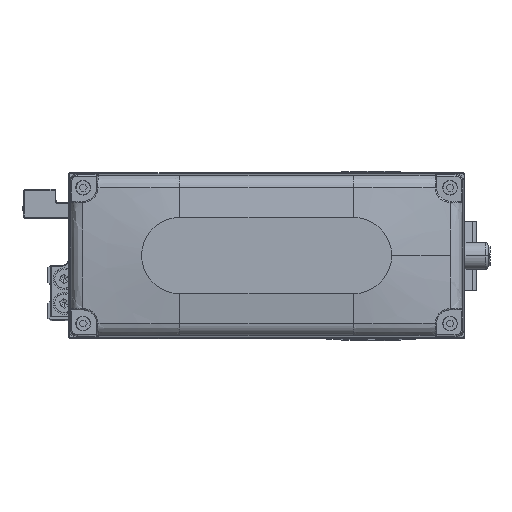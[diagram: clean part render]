
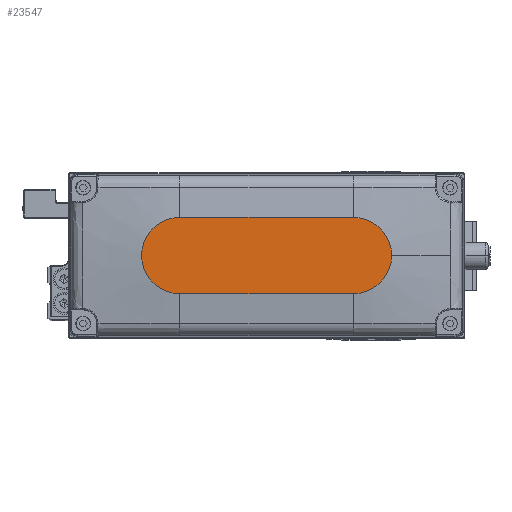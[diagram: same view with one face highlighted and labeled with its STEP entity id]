
A CAD part, top view. The second image highlights one B-rep face of the part: STEP entity #23547.
In plain terms, the highlighted planar face has unit normal (0, 0, 1).
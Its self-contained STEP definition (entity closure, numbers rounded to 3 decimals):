
#1867 = VERTEX_POINT ( 'NONE', #25489 ) ;
#1929 = DIRECTION ( 'NONE',  ( -1., 0., 0. ) ) ;
#2233 = EDGE_CURVE ( 'NONE', #1867, #32567, #26029, .T. ) ;
#2376 = AXIS2_PLACEMENT_3D ( 'NONE', #23067, #36516, #6340 ) ;
#2494 = DIRECTION ( 'NONE',  ( 1., 0., 0. ) ) ;
#2682 = CIRCLE ( 'NONE', #27292, 14. ) ;
#3528 = CARTESIAN_POINT ( 'NONE',  ( 0., 0., 35. ) ) ;
#3705 = EDGE_CURVE ( 'NONE', #32567, #7930, #21359, .T. ) ;
#4442 = ORIENTED_EDGE ( 'NONE', *, *, #3705, .T. ) ;
#6340 = DIRECTION ( 'NONE',  ( 1., 0., 0. ) ) ;
#7543 = CARTESIAN_POINT ( 'NONE',  ( -32., 0., 35. ) ) ;
#7930 = VERTEX_POINT ( 'NONE', #24141 ) ;
#9283 = DIRECTION ( 'NONE',  ( 1., 0., 0. ) ) ;
#11624 = VERTEX_POINT ( 'NONE', #21262 ) ;
#12054 = EDGE_CURVE ( 'NONE', #11624, #1867, #2682, .T. ) ;
#14186 = ORIENTED_EDGE ( 'NONE', *, *, #30897, .T. ) ;
#16969 = DIRECTION ( 'NONE',  ( 0., 0., 1. ) ) ;
#17326 = VERTEX_POINT ( 'NONE', #40357 ) ;
#18672 = LINE ( 'NONE', #32104, #25862 ) ;
#19249 = CARTESIAN_POINT ( 'NONE',  ( 32., 0., 35. ) ) ;
#20258 = FACE_OUTER_BOUND ( 'NONE', #21274, .T. ) ;
#20975 = DIRECTION ( 'NONE',  ( 0., 0., 1. ) ) ;
#21013 = ORIENTED_EDGE ( 'NONE', *, *, #2233, .T. ) ;
#21262 = CARTESIAN_POINT ( 'NONE',  ( -32., 14., 35. ) ) ;
#21274 = EDGE_LOOP ( 'NONE', ( #40976, #24553, #21013, #4442, #14186 ) ) ;
#21359 = CIRCLE ( 'NONE', #2376, 14. ) ;
#23067 = CARTESIAN_POINT ( 'NONE',  ( 32., 0., 35. ) ) ;
#23547 = ADVANCED_FACE ( 'NONE', ( #20258 ), #33713, .T. ) ;
#24141 = CARTESIAN_POINT ( 'NONE',  ( 46., 0., 35. ) ) ;
#24553 = ORIENTED_EDGE ( 'NONE', *, *, #12054, .T. ) ;
#25489 = CARTESIAN_POINT ( 'NONE',  ( -32., -14., 35. ) ) ;
#25862 = VECTOR ( 'NONE', #1929, 1000. ) ;
#26029 = LINE ( 'NONE', #39474, #39690 ) ;
#27292 = AXIS2_PLACEMENT_3D ( 'NONE', #7543, #20975, #34435 ) ;
#30410 = DIRECTION ( 'NONE',  ( 1., 0., 0. ) ) ;
#30897 = EDGE_CURVE ( 'NONE', #7930, #17326, #31964, .T. ) ;
#31964 = CIRCLE ( 'NONE', #37587, 14. ) ;
#32104 = CARTESIAN_POINT ( 'NONE',  ( -32., 14., 35. ) ) ;
#32567 = VERTEX_POINT ( 'NONE', #39331 ) ;
#32691 = DIRECTION ( 'NONE',  ( 0., 0., 1. ) ) ;
#33713 = PLANE ( 'NONE',  #38028 ) ;
#34435 = DIRECTION ( 'NONE',  ( 1., 0., 0. ) ) ;
#36516 = DIRECTION ( 'NONE',  ( 0., 0., 1. ) ) ;
#37587 = AXIS2_PLACEMENT_3D ( 'NONE', #19249, #32691, #2494 ) ;
#38028 = AXIS2_PLACEMENT_3D ( 'NONE', #3528, #16969, #30410 ) ;
#38943 = EDGE_CURVE ( 'NONE', #17326, #11624, #18672, .T. ) ;
#39331 = CARTESIAN_POINT ( 'NONE',  ( 32., -14., 35. ) ) ;
#39474 = CARTESIAN_POINT ( 'NONE',  ( -32., -14., 35. ) ) ;
#39690 = VECTOR ( 'NONE', #9283, 1000. ) ;
#40357 = CARTESIAN_POINT ( 'NONE',  ( 32., 14., 35. ) ) ;
#40976 = ORIENTED_EDGE ( 'NONE', *, *, #38943, .T. ) ;
